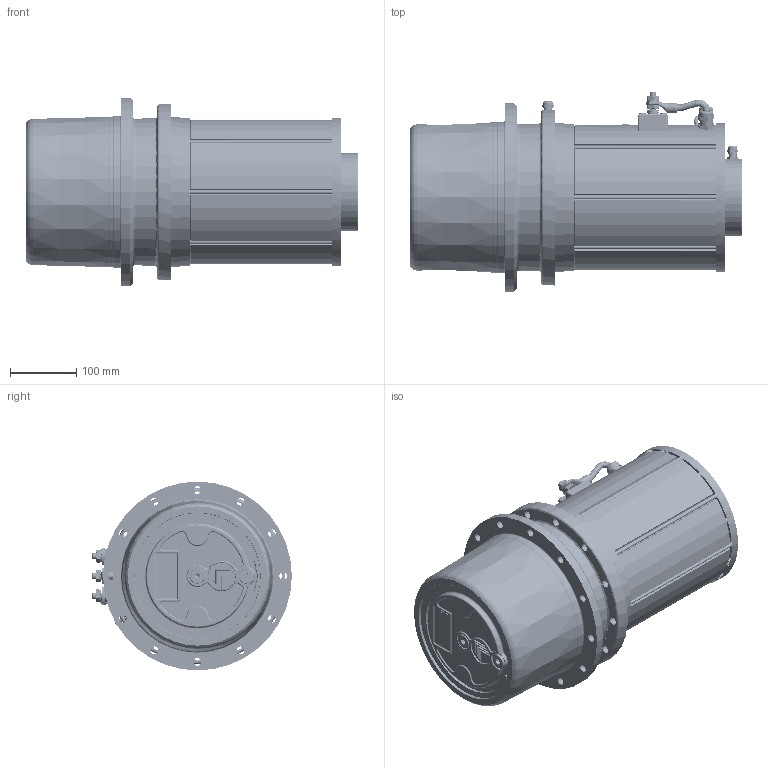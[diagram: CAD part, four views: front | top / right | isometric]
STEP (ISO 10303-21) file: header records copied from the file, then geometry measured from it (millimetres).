
FILE_DESCRIPTION(/* description */ (''),/* implementation_level */ '2;1');
FILE_NAME(/* name */ 'Z:\SITO WEB 2024\Dual Drive\MRH230\MRH230-PMAC.stp',/* time_stamp */ '2024-03-22T09:27:09+01:00',/* author */ ('cad3'),/* organization */ (''),/* preprocessor_version */ 'ST-DEVELOPER v18.1',/* originating_system */ 'Autodesk Inventor 2022',/* authorisation */ '');
FILE_SCHEMA (('AUTOMOTIVE_DESIGN { 1 0 10303 214 3 1 1 }'));
Products named in the file (1): MRH230-PMAC
Bounding box: 503 x 302.46 x 286 mm (x, y, z)
Volume: 7765553.3 mm3; surface area: 1391346.5 mm2
Topology: 14 solids, 78 shells, 9753 faces, 25406 edges, 16543 vertices
Faces by surface type: plane 6635, cylinder 1603, cone 665, torus 651, bspline 168, sphere 31
Full cylindrical faces by diameter (mm): 2 x2, 2.5 x6, 3.242 x3, 4 x5, 4.5 x3, 4.917 x26, 5 x7, 6 x30, 6.3 x2, 6.5 x33, 7 x7, 7.5 x2, 7.64 x3, 8.376 x2, 8.5 x5, 9.8 x9, 10 x32, 10.2 x3, 10.3 x1, 10.376 x2, 10.5 x6, 11 x26, 11.835 x12, 11.97 x2, 12 x4, 12.376 x11, 14 x4, 15 x6, 16 x5, 17.3 x4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
Entity records: 328279 total; most frequent: CARTESIAN_POINT 76719, ORIENTED_EDGE 50634, DIRECTION 50228, EDGE_CURVE 25317, AXIS2_PLACEMENT_3D 17792, VERTEX_POINT 16565, LINE 14644, VECTOR 14644
